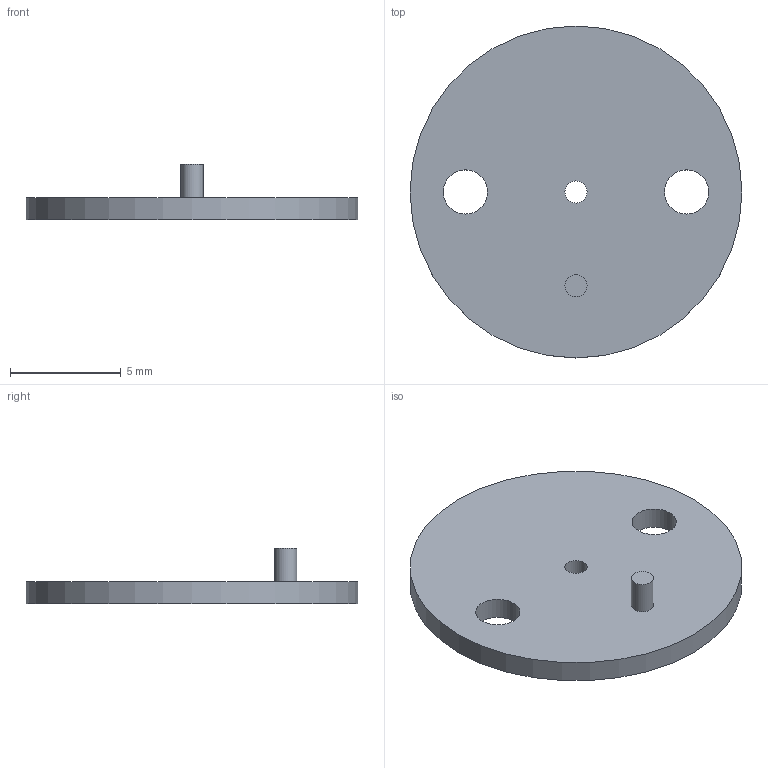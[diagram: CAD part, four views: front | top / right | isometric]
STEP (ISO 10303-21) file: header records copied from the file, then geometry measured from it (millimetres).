
FILE_DESCRIPTION(/* description */ (''),/* implementation_level */ '2;1');
FILE_NAME(/* name */ 'C:\Users\user\Desktop\Motor 1 cilindro\Rueda.stp',/* time_stamp */ '2021-08-16T19:47:30-05:00',/* author */ ('user'),/* organization */ (''),/* preprocessor_version */ 'ST-DEVELOPER v18.1',/* originating_system */ 'Autodesk Inventor 2022',/* authorisation */ '');
FILE_SCHEMA (('AUTOMOTIVE_DESIGN { 1 0 10303 214 3 1 1 }'));
Length unit declared in the file: millimetre
Products named in the file (1): Rueda
Bounding box: 15 x 15 x 2.5 mm (x, y, z)
Volume: 170.8 mm3; surface area: 406.8 mm2
Topology: 1 solids, 1 shells, 8 faces, 15 edges, 10 vertices
Faces by surface type: cylinder 5, plane 3
Full cylindrical faces by diameter (mm): 1 x2, 2 x2, 15 x1
Entity records: 262 total; most frequent: DIRECTION 43, CARTESIAN_POINT 34, ORIENTED_EDGE 30, AXIS2_PLACEMENT_3D 19, EDGE_LOOP 15, EDGE_CURVE 15, CIRCLE 10, VERTEX_POINT 10
